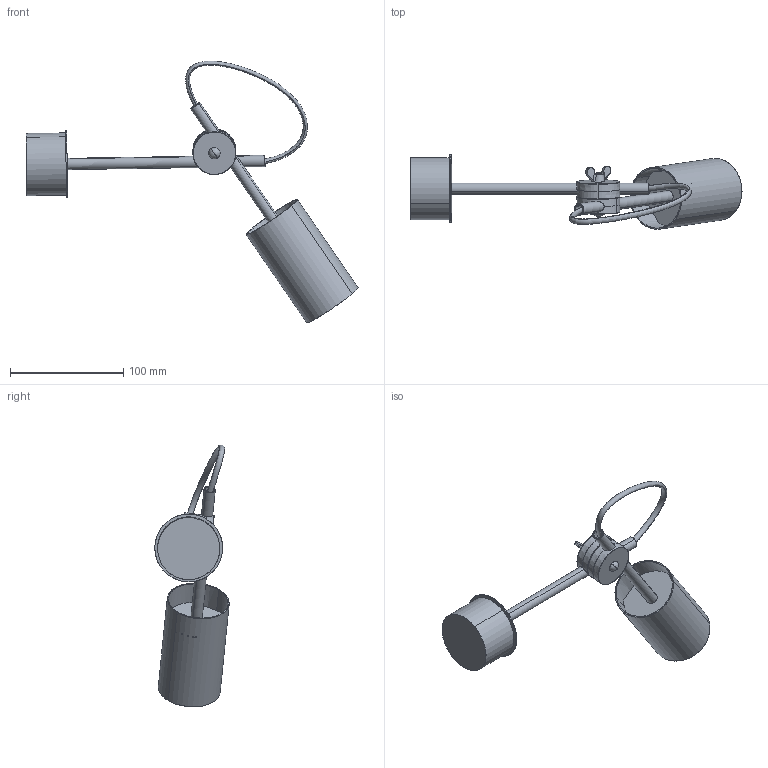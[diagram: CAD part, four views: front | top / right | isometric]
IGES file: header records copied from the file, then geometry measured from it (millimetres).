
Start section: SolidWorks IGES file using analytic representation for surfaces
Global section: file name: E:\3D lampy\Lampy Katalogowe\Eye\Kinkiet\Eye kinkiet.IGS; native system: SolidWorks 2016; preprocessor: SolidWorks 2016; author: Asia; date: 160727.154538; units: millimetre
Bounding box: 293.73 x 65.83 x 231.67 mm (x, y, z)
Surface area: 92749.6 mm2 (no closed solid volume)
Topology: 0 solids, 0 shells, 176 faces, 4130 edges, 4129 vertices
Faces by surface type: revolution 96, bspline 80
